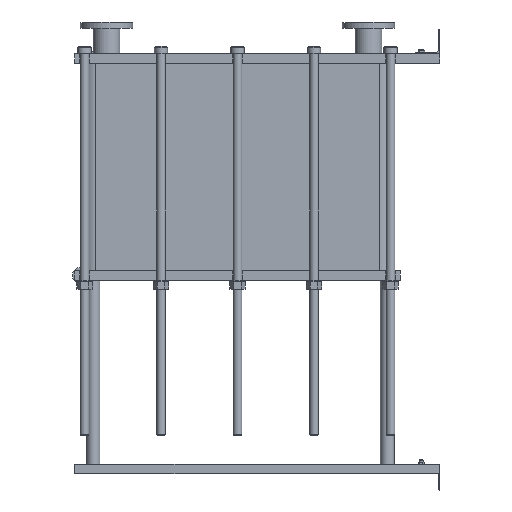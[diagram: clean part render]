
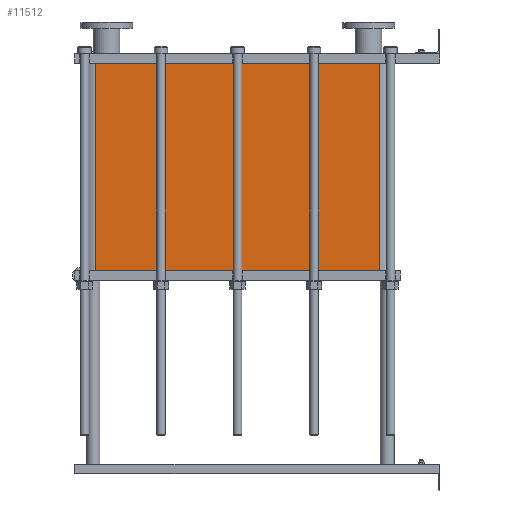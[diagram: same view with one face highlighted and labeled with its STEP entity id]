
A CAD part, left-side view. The second image highlights one B-rep face of the part: STEP entity #11512.
In plain terms, the highlighted planar face has unit normal (-1, 0, 0).
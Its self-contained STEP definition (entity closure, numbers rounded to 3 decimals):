
#1129=LINE('',#23232,#2102);
#1130=LINE('',#23236,#2103);
#1131=LINE('',#23238,#2104);
#1132=LINE('',#23239,#2105);
#2102=VECTOR('',#15887,10.);
#2103=VECTOR('',#15892,10.);
#2104=VECTOR('',#15893,10.);
#2105=VECTOR('',#15894,10.);
#3267=FACE_OUTER_BOUND('',#4093,.T.);
#4093=EDGE_LOOP('',(#10103,#10104,#10105,#10106));
#5642=VERTEX_POINT('',#23229);
#5643=VERTEX_POINT('',#23231);
#5644=VERTEX_POINT('',#23235);
#5645=VERTEX_POINT('',#23237);
#7159=EDGE_CURVE('',#5643,#5642,#1129,.T.);
#7161=EDGE_CURVE('',#5642,#5644,#1130,.T.);
#7162=EDGE_CURVE('',#5645,#5644,#1131,.T.);
#7163=EDGE_CURVE('',#5645,#5643,#1132,.T.);
#10103=ORIENTED_EDGE('',*,*,#7161,.T.);
#10104=ORIENTED_EDGE('',*,*,#7162,.F.);
#10105=ORIENTED_EDGE('',*,*,#7163,.T.);
#10106=ORIENTED_EDGE('',*,*,#7159,.T.);
#10857=PLANE('',#12751);
#11512=ADVANCED_FACE('',(#3267),#10857,.T.);
#12751=AXIS2_PLACEMENT_3D('',#23234,#15890,#15891);
#15887=DIRECTION('',(0.,0.,-1.));
#15890=DIRECTION('center_axis',(-1.,0.,0.));
#15891=DIRECTION('ref_axis',(0.,1.,0.));
#15892=DIRECTION('',(0.,-1.,0.));
#15893=DIRECTION('',(0.,0.,-1.));
#15894=DIRECTION('',(0.,1.,0.));
#23229=CARTESIAN_POINT('',(-200.,1414.,-852.15));
#23231=CARTESIAN_POINT('',(-200.,1414.,0.));
#23232=CARTESIAN_POINT('',(-200.,1414.,0.));
#23234=CARTESIAN_POINT('Origin',(-200.,248.,0.));
#23235=CARTESIAN_POINT('',(-200.,248.,-852.15));
#23236=CARTESIAN_POINT('',(-200.,539.5,-852.15));
#23237=CARTESIAN_POINT('',(-200.,248.,0.));
#23238=CARTESIAN_POINT('',(-200.,248.,0.));
#23239=CARTESIAN_POINT('',(-200.,248.,0.));
